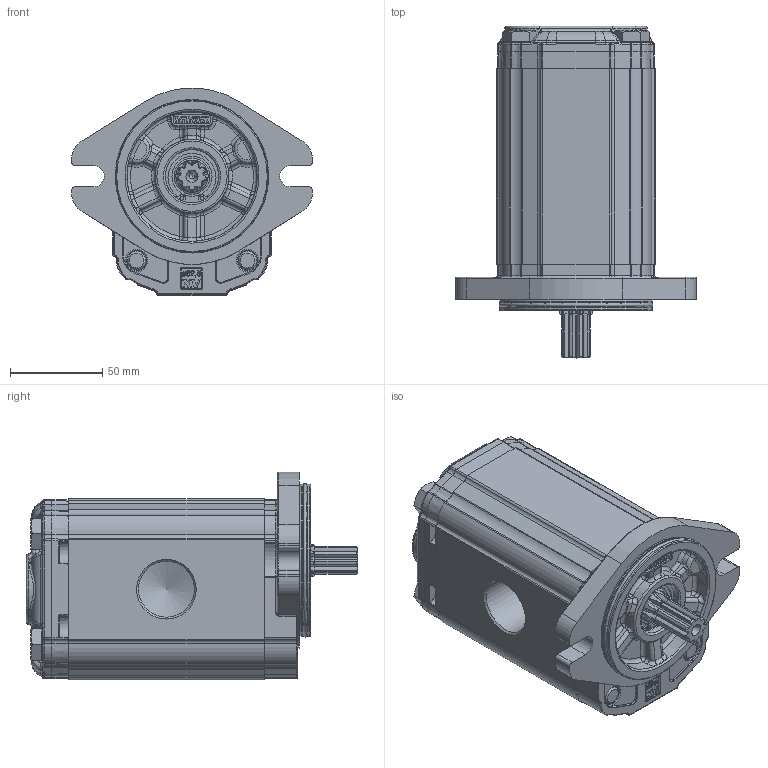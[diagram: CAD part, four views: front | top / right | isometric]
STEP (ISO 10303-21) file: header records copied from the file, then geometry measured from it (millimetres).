
FILE_DESCRIPTION(/* description */ ('Unknown'),/* implementation_level */ '2;1');
FILE_NAME(/* name */ 'X2R6331IDDF',/* time_stamp */ '2021-04-14T20:01:57+02:00',/* author */ ('Unknown'),/* organization */ ('Unknown'),/* preprocessor_version */ 'ST-DEVELOPER v16.7',/* originating_system */ 'Solid Edge',/* authorisation */ 'Unknown');
FILE_SCHEMA (('AUTOMOTIVE_DESIGN {1 0 10303 214 3 1 1}'));
Products named in the file (5): X2R6331IDDF; X2R31; 2I; X2DDH106; XR219-F
Assembly tree (4 placements, depth 2):
  X2R6331IDDF
    X2R31
    2I
    X2DDH106
    XR219-F
Bounding box: 130.38 x 179.7 x 112.3 mm (x, y, z)
Volume: 1105223.9 mm3; surface area: 123430.1 mm2
Topology: 4 solids, 5 shells, 2106 faces, 5188 edges, 3159 vertices
Faces by surface type: cylinder 624, plane 572, bspline 513, torus 256, cone 103, sphere 38
Full cylindrical faces by diameter (mm): 2 x2, 10 x4, 10.5 x4, 11 x2, 16 x4, 17.42 x1, 17.48 x2, 18.724 x1, 20.595 x1, 21.741 x1, 25.834 x1, 28.56 x1, 28.57 x1, 28.8 x1, 30.291 x2, 30.4 x1, 79.6 x2, 82.5 x2
Entity records: 87439 total; most frequent: CARTESIAN_POINT 28189, ORIENTED_EDGE 10058, DIRECTION 8420, EDGE_CURVE 5029, AXIS2_PLACEMENT_3D 3198, VERTEX_POINT 3107, FACE_BOUND 2282, EDGE_LOOP 2278
